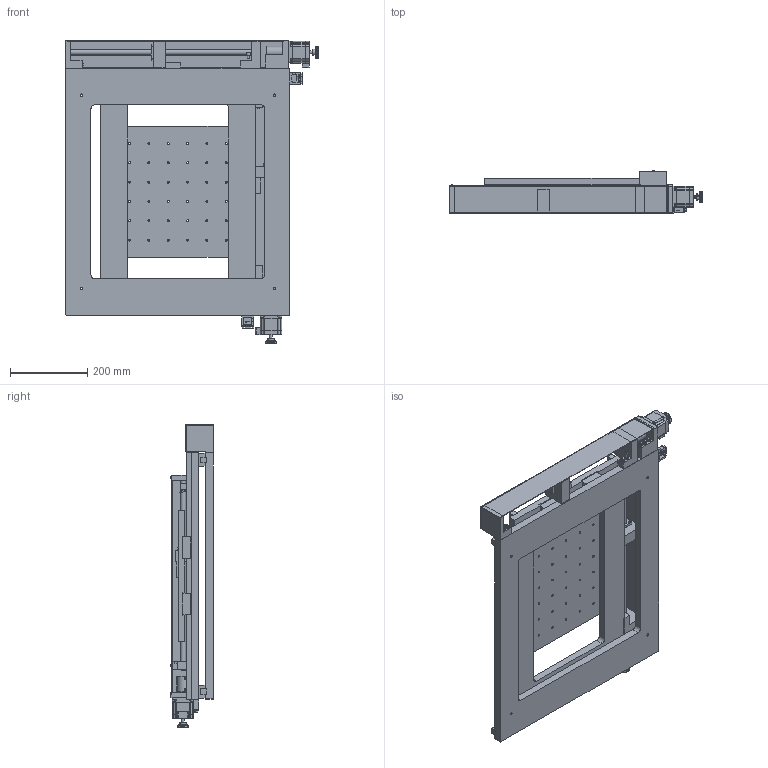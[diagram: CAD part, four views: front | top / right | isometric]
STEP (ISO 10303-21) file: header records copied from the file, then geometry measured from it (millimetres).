
FILE_DESCRIPTION (( 'STEP AP203' ), '1' );
FILE_NAME ('JT640-350.step', '2017-01-10T10:30:47', ( '¦K¬P' ), ( '' ), 'SwSTEP 2.0', 'SolidWorks 2012', '' );
FILE_SCHEMA (( 'CONFIG_CONTROL_DESIGN' ));
Products named in the file (1): JT640-350
Bounding box: 653 x 110.15 x 785 mm (x, y, z)
Surface area: 1693561.5 mm2 (no closed solid volume)
Topology: 0 solids, 165 shells, 1398 faces, 5298 edges, 3891 vertices
Faces by surface type: plane 802, cylinder 504, cone 76, torus 10, sphere 4, bspline 2
Full cylindrical faces by diameter (mm): 1.04 x6, 1.64 x13, 2 x1, 2.2 x4, 3 x4, 3.4 x6, 4 x4, 5 x40, 5.5 x4, 5.7 x3, 6 x37, 6.5 x4, 7 x9, 7.5 x18, 8 x34, 10 x1, 11 x13, 14 x2, 15.8 x2, 21 x2, 21.2 x2, 25 x2, 32 x2
Entity records: 55985 total; most frequent: CARTESIAN_POINT 13260, DIRECTION 8638, ORIENTED_EDGE 7236, EDGE_CURVE 4966, VERTEX_POINT 3847, VECTOR 2880, LINE 2880, AXIS2_PLACEMENT_3D 2879
